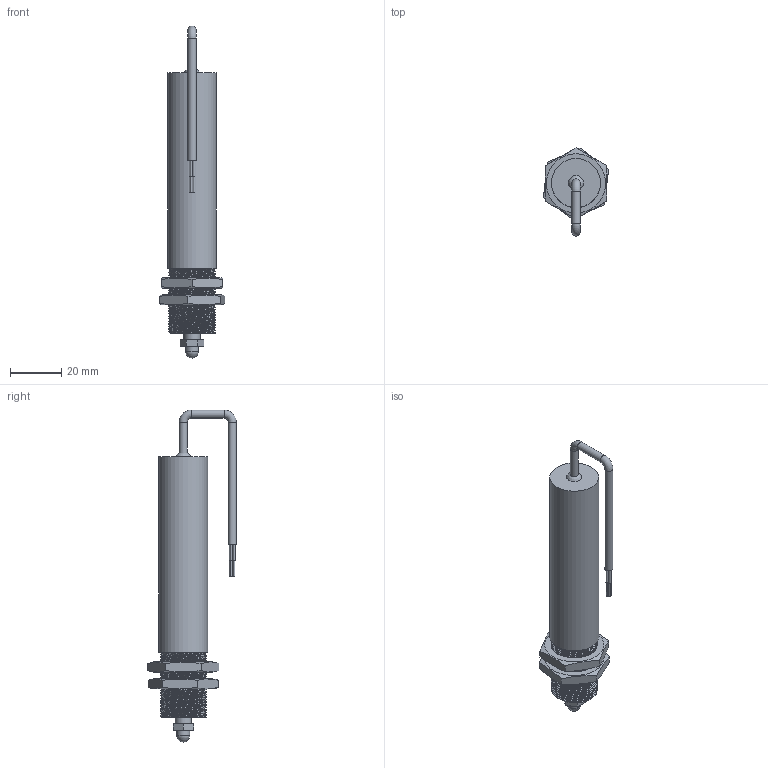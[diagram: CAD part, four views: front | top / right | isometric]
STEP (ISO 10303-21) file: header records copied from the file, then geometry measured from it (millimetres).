
FILE_DESCRIPTION(/* description */ ('ILPS-18S-025-A-00-YY-A SW'),/* implementation_level */ '2;1');
FILE_NAME(/* name */ 'ILPS-18S-025-A-00-YY-A SW.stp',/* time_stamp */ '2026-09-01T08:32:27-04:00',/* author */ ('Cameron'),/* organization */ ('HGSI'),/* preprocessor_version */ 'ST-DEVELOPER v20.1',/* originating_system */ 'Autodesk Inventor 2027',/* authorisation */ '');
FILE_SCHEMA (('AUTOMOTIVE_DESIGN { 1 0 10303 214 3 1 1 }'));
Length unit declared in the file: inch
Products named in the file (5): ILPS-18S-025-A-00-YY-A SW; ILPS-18S-025 Spoiler; Hex Nut; #12360; ILPS-18S-025-A-00-YY-A Body SW
Assembly tree (5 placements, depth 2):
  ILPS-18S-025-A-00-YY-A SW
    ILPS-18S-025 Spoiler
    Hex Nut  x2
    #12360
    ILPS-18S-025-A-00-YY-A Body SW
Bounding box: 25.42 x 34.49 x 129.47 mm (x, y, z)
Volume: 30556.2 mm3; surface area: 14780.9 mm2
Topology: 7 solids, 7 shells, 139 faces, 335 edges, 234 vertices
Faces by surface type: cylinder 74, plane 46, bspline 12, cone 4, torus 2, sphere 1
Full cylindrical faces by diameter (mm): 0.635 x4, 0.762 x4, 1.905 x1, 2.845 x3, 3.175 x4, 5.08 x1, 6.35 x2, 16.891 x24, 18 x25, 19.05 x1
Entity records: 12339 total; most frequent: CARTESIAN_POINT 9252, ORIENTED_EDGE 600, DIRECTION 471, EDGE_CURVE 300, VERTEX_POINT 198, AXIS2_PLACEMENT_3D 184, EDGE_LOOP 146, B_SPLINE_CURVE_WITH_KNOTS 128
